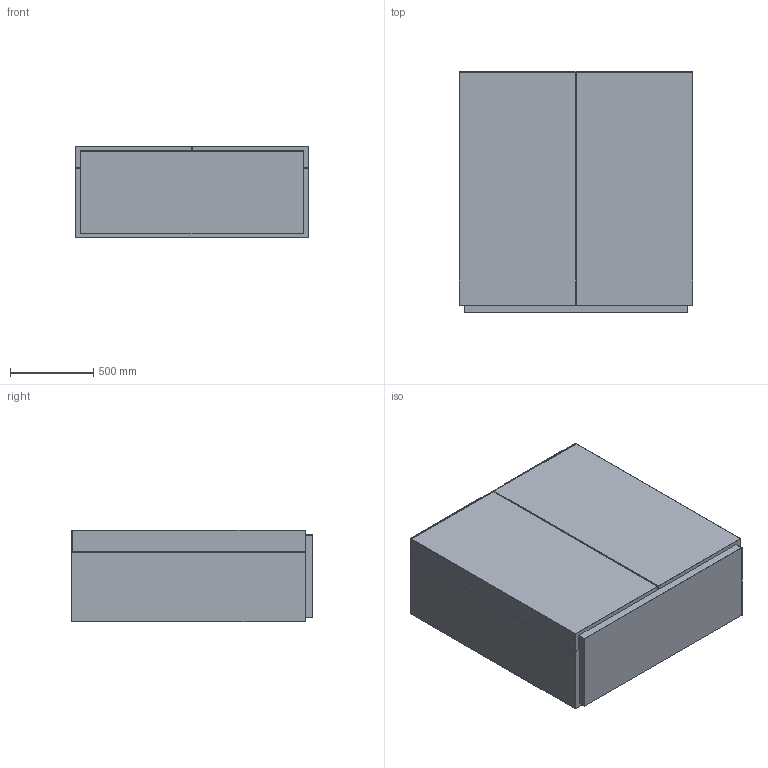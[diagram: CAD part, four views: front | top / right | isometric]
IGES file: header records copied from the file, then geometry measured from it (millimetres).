
Start section: SolidWorks IGES file using analytic representation for surfaces
Global section: file name: \\UTENTI\Dati Utenti\Tecnico\DC\2D - 3D per sito\3D\DeCastelli-3D-Graffio.igs; native system: SolidWorks 2022; preprocessor: SolidWorks 2022; author: maria; date: 240712.144705; units: millimetre
Bounding box: 1403 x 1446.5 x 551 mm (x, y, z)
Surface area: 13516615.5 mm2 (no closed solid volume)
Topology: 0 solids, 0 shells, 92 faces, 908 edges, 908 vertices
Faces by surface type: bspline 86, revolution 6
